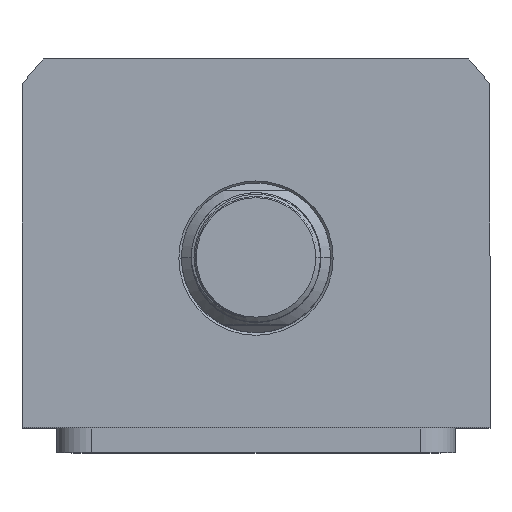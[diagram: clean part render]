
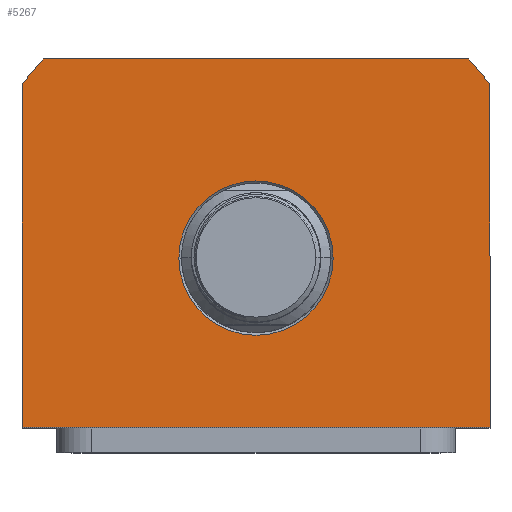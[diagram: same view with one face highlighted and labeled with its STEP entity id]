
A CAD part, top view. The second image highlights one B-rep face of the part: STEP entity #5267.
In plain terms, the highlighted planar face has unit normal (0, 0, 1).
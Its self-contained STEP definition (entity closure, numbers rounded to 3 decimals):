
#311 = CARTESIAN_POINT ( 'NONE',  ( 47., -34., 55. ) ) ;
#419 = ORIENTED_EDGE ( 'NONE', *, *, #12569, .T. ) ;
#586 = CARTESIAN_POINT ( 'NONE',  ( 0., 0., 55. ) ) ;
#732 = VERTEX_POINT ( 'NONE', #16126 ) ;
#881 = LINE ( 'NONE', #17541, #1827 ) ;
#891 = DIRECTION ( 'NONE',  ( -1., 0., 0. ) ) ;
#995 = DIRECTION ( 'NONE',  ( 0., 0., -1. ) ) ;
#1090 = ORIENTED_EDGE ( 'NONE', *, *, #1865, .T. ) ;
#1494 = CIRCLE ( 'NONE', #18758, 15.5 ) ;
#1764 = DIRECTION ( 'NONE',  ( 0., 0., 1. ) ) ;
#1827 = VECTOR ( 'NONE', #19050, 1000. ) ;
#1865 = EDGE_CURVE ( 'NONE', #16258, #18427, #9207, .T. ) ;
#2598 = CARTESIAN_POINT ( 'NONE',  ( 0., 0., 55. ) ) ;
#2908 = AXIS2_PLACEMENT_3D ( 'NONE', #7289, #6085, #11982 ) ;
#4011 = ORIENTED_EDGE ( 'NONE', *, *, #5575, .T. ) ;
#4252 = AXIS2_PLACEMENT_3D ( 'NONE', #16704, #1764, #6339 ) ;
#4261 = ORIENTED_EDGE ( 'NONE', *, *, #12047, .T. ) ;
#4329 = CARTESIAN_POINT ( 'NONE',  ( -47., -34., 55. ) ) ;
#4529 = CARTESIAN_POINT ( 'NONE',  ( 15.5, 0., 55. ) ) ;
#5139 = DIRECTION ( 'NONE',  ( 0., 1., 0. ) ) ;
#5154 = ORIENTED_EDGE ( 'NONE', *, *, #9536, .T. ) ;
#5267 = ADVANCED_FACE ( 'NONE', ( #14484, #18546 ), #17004, .T. ) ;
#5406 = VERTEX_POINT ( 'NONE', #8113 ) ;
#5535 = LINE ( 'NONE', #4329, #9328 ) ;
#5575 = EDGE_CURVE ( 'NONE', #18427, #16258, #1494, .T. ) ;
#5709 = ORIENTED_EDGE ( 'NONE', *, *, #9957, .T. ) ;
#5744 = EDGE_LOOP ( 'NONE', ( #419, #5154, #11911, #5709, #4261, #18203 ) ) ;
#6085 = DIRECTION ( 'NONE',  ( 0., 0., 1. ) ) ;
#6109 = CIRCLE ( 'NONE', #2908, 58.5 ) ;
#6339 = DIRECTION ( 'NONE',  ( 1., 0., 0. ) ) ;
#6620 = LINE ( 'NONE', #6991, #18221 ) ;
#6627 = DIRECTION ( 'NONE',  ( 1., 0., 0. ) ) ;
#6876 = VECTOR ( 'NONE', #5139, 1000. ) ;
#6980 = DIRECTION ( 'NONE',  ( 1., 0., 0. ) ) ;
#6991 = CARTESIAN_POINT ( 'NONE',  ( -42.688, 40., 55. ) ) ;
#7289 = CARTESIAN_POINT ( 'NONE',  ( 0., 0., 55. ) ) ;
#7730 = VERTEX_POINT ( 'NONE', #9611 ) ;
#7947 = DIRECTION ( 'NONE',  ( 0., 0., 1. ) ) ;
#8035 = LINE ( 'NONE', #18781, #6876 ) ;
#8113 = CARTESIAN_POINT ( 'NONE',  ( 42.688, 40., 55. ) ) ;
#8247 = CARTESIAN_POINT ( 'NONE',  ( 47., 34.832, 55. ) ) ;
#8331 = EDGE_LOOP ( 'NONE', ( #4011, #1090 ) ) ;
#8986 = CARTESIAN_POINT ( 'NONE',  ( -15.5, 0., 55. ) ) ;
#9207 = CIRCLE ( 'NONE', #11369, 15.5 ) ;
#9328 = VECTOR ( 'NONE', #17901, 1000. ) ;
#9487 = AXIS2_PLACEMENT_3D ( 'NONE', #586, #7947, #6627 ) ;
#9536 = EDGE_CURVE ( 'NONE', #15350, #15493, #8035, .T. ) ;
#9611 = CARTESIAN_POINT ( 'NONE',  ( -47., -34., 55. ) ) ;
#9723 = CARTESIAN_POINT ( 'NONE',  ( 0., 0., 55. ) ) ;
#9957 = EDGE_CURVE ( 'NONE', #5406, #12285, #6620, .T. ) ;
#11369 = AXIS2_PLACEMENT_3D ( 'NONE', #9723, #995, #11709 ) ;
#11709 = DIRECTION ( 'NONE',  ( 1., 0., 0. ) ) ;
#11911 = ORIENTED_EDGE ( 'NONE', *, *, #14554, .T. ) ;
#11982 = DIRECTION ( 'NONE',  ( 1., 0., 0. ) ) ;
#12047 = EDGE_CURVE ( 'NONE', #12285, #732, #6109, .T. ) ;
#12285 = VERTEX_POINT ( 'NONE', #19127 ) ;
#12569 = EDGE_CURVE ( 'NONE', #7730, #15350, #881, .T. ) ;
#13194 = DIRECTION ( 'NONE',  ( 0., 0., -1. ) ) ;
#14484 = FACE_BOUND ( 'NONE', #8331, .T. ) ;
#14554 = EDGE_CURVE ( 'NONE', #15493, #5406, #18840, .T. ) ;
#15350 = VERTEX_POINT ( 'NONE', #311 ) ;
#15493 = VERTEX_POINT ( 'NONE', #8247 ) ;
#16126 = CARTESIAN_POINT ( 'NONE',  ( -47., 34.832, 55. ) ) ;
#16258 = VERTEX_POINT ( 'NONE', #8986 ) ;
#16653 = EDGE_CURVE ( 'NONE', #732, #7730, #5535, .T. ) ;
#16704 = CARTESIAN_POINT ( 'NONE',  ( 0., 0., 55. ) ) ;
#17004 = PLANE ( 'NONE',  #9487 ) ;
#17541 = CARTESIAN_POINT ( 'NONE',  ( 47., -34., 55. ) ) ;
#17901 = DIRECTION ( 'NONE',  ( 0., -1., 0. ) ) ;
#18203 = ORIENTED_EDGE ( 'NONE', *, *, #16653, .T. ) ;
#18221 = VECTOR ( 'NONE', #891, 1000. ) ;
#18427 = VERTEX_POINT ( 'NONE', #4529 ) ;
#18546 = FACE_OUTER_BOUND ( 'NONE', #5744, .T. ) ;
#18758 = AXIS2_PLACEMENT_3D ( 'NONE', #2598, #13194, #6980 ) ;
#18781 = CARTESIAN_POINT ( 'NONE',  ( 47., 34.832, 55. ) ) ;
#18840 = CIRCLE ( 'NONE', #4252, 58.5 ) ;
#19050 = DIRECTION ( 'NONE',  ( 1., 0., 0. ) ) ;
#19127 = CARTESIAN_POINT ( 'NONE',  ( -42.688, 40., 55. ) ) ;
